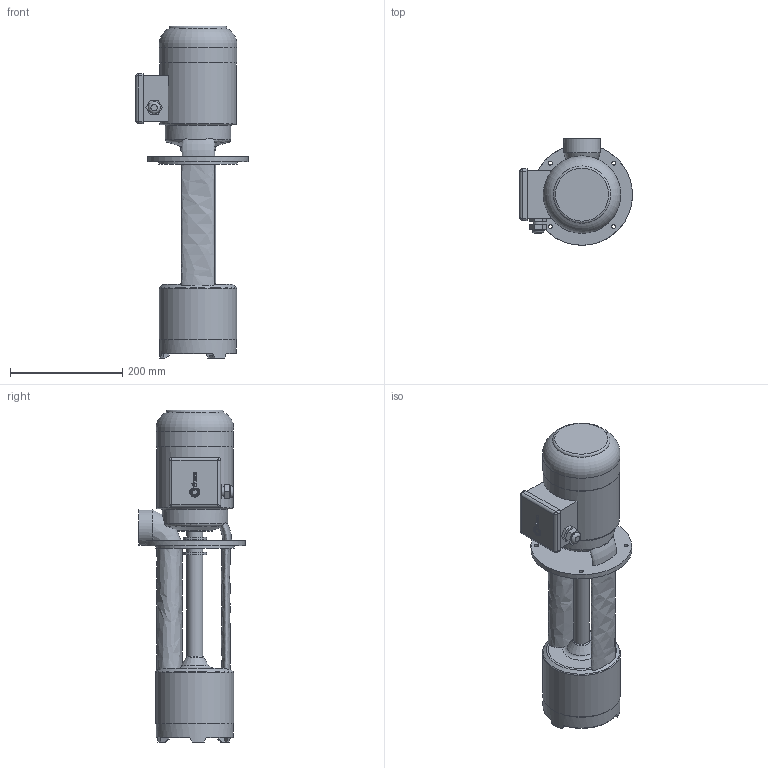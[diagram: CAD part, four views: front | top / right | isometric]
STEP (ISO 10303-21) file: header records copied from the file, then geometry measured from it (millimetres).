
FILE_DESCRIPTION(/* description */ ('Unknown'),/* implementation_level */ '2;1');
FILE_NAME(/* name */ 'EP 153-350',/* time_stamp */ '2023-03-30T13:40:13+03:00',/* author */ ('Unknown'),/* organization */ ('Unknown'),/* preprocessor_version */ 'ST-DEVELOPER v16.7',/* originating_system */ 'DEX',/* authorisation */ $);
FILE_SCHEMA (('AUTOMOTIVE_DESIGN {1 0 10303 214 3 1 1}'));
Length unit declared in the file: millimetre
Products named in the file (1): EP 153-350
Bounding box: 201.5 x 190 x 592.36 mm (x, y, z)
Volume: 6336119.7 mm3; surface area: 367842.2 mm2
Topology: 1 solids, 1 shells, 264 faces, 670 edges, 431 vertices
Faces by surface type: plane 91, bspline 81, cylinder 56, torus 26, cone 10
Full cylindrical faces by diameter (mm): 7 x4, 17 x1, 21.5 x1, 28 x1, 29 x3, 30 x1, 42 x2, 44 x1, 48 x1, 62 x1, 94 x1, 116.969 x1, 136.473 x1, 137 x1, 137.994 x1, 139 x1, 140 x1, 180 x1
Entity records: 11309 total; most frequent: CARTESIAN_POINT 5675, ORIENTED_EDGE 1204, DIRECTION 957, EDGE_CURVE 602, VERTEX_POINT 415, AXIS2_PLACEMENT_3D 364, EDGE_LOOP 355, FACE_BOUND 355
